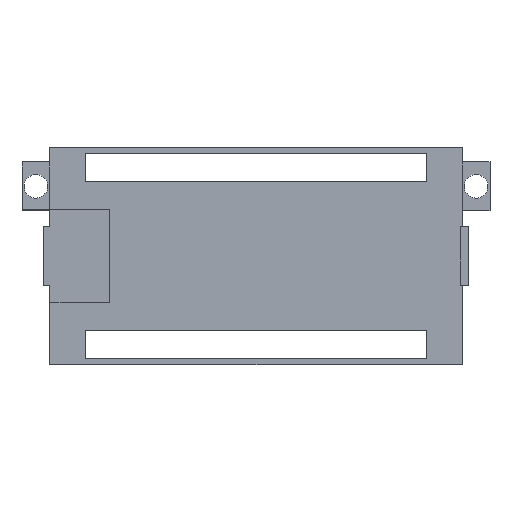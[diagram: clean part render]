
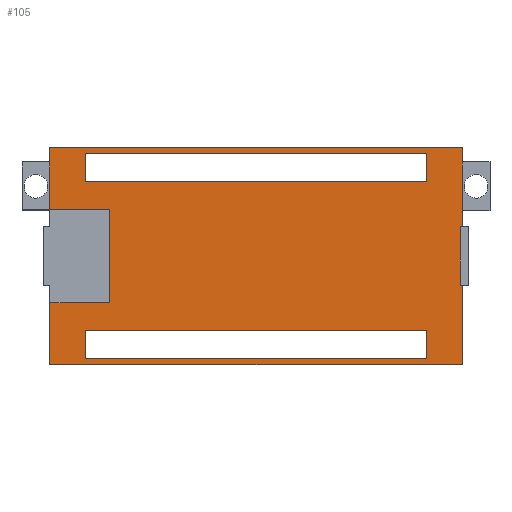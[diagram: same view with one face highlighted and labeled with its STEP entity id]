
A CAD part, top view. The second image highlights one B-rep face of the part: STEP entity #105.
In plain terms, the highlighted planar face has unit normal (0, 0, 1).
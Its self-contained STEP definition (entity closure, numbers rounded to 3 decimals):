
#21 = EDGE_CURVE('',#22,#24,#26,.T.);
#22 = VERTEX_POINT('',#23);
#23 = CARTESIAN_POINT('',(-29.6,-1.625,39.925));
#24 = VERTEX_POINT('',#25);
#25 = CARTESIAN_POINT('',(-29.6,7.275,39.925));
#26 = LINE('',#27,#28);
#27 = CARTESIAN_POINT('',(-29.6,-1.625,39.925));
#28 = VECTOR('',#29,1.);
#29 = DIRECTION('',(-0.,1.,0.));
#105 = ADVANCED_FACE('',(#106,#219,#253),#287,.T.);
#106 = FACE_BOUND('',#107,.T.);
#107 = EDGE_LOOP('',(#108,#109,#117,#125,#133,#141,#149,#157,#165,#173,
    #181,#189,#197,#205,#213));
#108 = ORIENTED_EDGE('',*,*,#21,.F.);
#109 = ORIENTED_EDGE('',*,*,#110,.T.);
#110 = EDGE_CURVE('',#22,#111,#113,.T.);
#111 = VERTEX_POINT('',#112);
#112 = CARTESIAN_POINT('',(29.6,-1.625,39.925));
#113 = LINE('',#114,#115);
#114 = CARTESIAN_POINT('',(-29.6,-1.625,39.925));
#115 = VECTOR('',#116,1.);
#116 = DIRECTION('',(1.,0.,-0.));
#117 = ORIENTED_EDGE('',*,*,#118,.T.);
#118 = EDGE_CURVE('',#111,#119,#121,.T.);
#119 = VERTEX_POINT('',#120);
#120 = CARTESIAN_POINT('',(29.6,9.775,39.925));
#121 = LINE('',#122,#123);
#122 = CARTESIAN_POINT('',(29.6,-1.625,39.925));
#123 = VECTOR('',#124,1.);
#124 = DIRECTION('',(-0.,1.,0.));
#125 = ORIENTED_EDGE('',*,*,#126,.T.);
#126 = EDGE_CURVE('',#119,#127,#129,.T.);
#127 = VERTEX_POINT('',#128);
#128 = CARTESIAN_POINT('',(29.3,9.775,39.925));
#129 = LINE('',#130,#131);
#130 = CARTESIAN_POINT('',(-0.15,9.775,39.925));
#131 = VECTOR('',#132,1.);
#132 = DIRECTION('',(-1.,-0.,0.));
#133 = ORIENTED_EDGE('',*,*,#134,.T.);
#134 = EDGE_CURVE('',#127,#135,#137,.T.);
#135 = VERTEX_POINT('',#136);
#136 = CARTESIAN_POINT('',(29.3,18.175,39.925));
#137 = LINE('',#138,#139);
#138 = CARTESIAN_POINT('',(29.3,4.075,39.925));
#139 = VECTOR('',#140,1.);
#140 = DIRECTION('',(-0.,1.,0.));
#141 = ORIENTED_EDGE('',*,*,#142,.F.);
#142 = EDGE_CURVE('',#143,#135,#145,.T.);
#143 = VERTEX_POINT('',#144);
#144 = CARTESIAN_POINT('',(29.6,18.175,39.925));
#145 = LINE('',#146,#147);
#146 = CARTESIAN_POINT('',(-0.15,18.175,39.925));
#147 = VECTOR('',#148,1.);
#148 = DIRECTION('',(-1.,-0.,0.));
#149 = ORIENTED_EDGE('',*,*,#150,.T.);
#150 = EDGE_CURVE('',#143,#151,#153,.T.);
#151 = VERTEX_POINT('',#152);
#152 = CARTESIAN_POINT('',(29.6,20.475,39.925));
#153 = LINE('',#154,#155);
#154 = CARTESIAN_POINT('',(29.6,-1.625,39.925));
#155 = VECTOR('',#156,1.);
#156 = DIRECTION('',(-0.,1.,0.));
#157 = ORIENTED_EDGE('',*,*,#158,.T.);
#158 = EDGE_CURVE('',#151,#159,#161,.T.);
#159 = VERTEX_POINT('',#160);
#160 = CARTESIAN_POINT('',(29.6,27.475,39.925));
#161 = LINE('',#162,#163);
#162 = CARTESIAN_POINT('',(29.6,-1.625,39.925));
#163 = VECTOR('',#164,1.);
#164 = DIRECTION('',(-0.,1.,0.));
#165 = ORIENTED_EDGE('',*,*,#166,.T.);
#166 = EDGE_CURVE('',#159,#167,#169,.T.);
#167 = VERTEX_POINT('',#168);
#168 = CARTESIAN_POINT('',(29.6,29.575,39.925));
#169 = LINE('',#170,#171);
#170 = CARTESIAN_POINT('',(29.6,-1.625,39.925));
#171 = VECTOR('',#172,1.);
#172 = DIRECTION('',(-0.,1.,0.));
#173 = ORIENTED_EDGE('',*,*,#174,.F.);
#174 = EDGE_CURVE('',#175,#167,#177,.T.);
#175 = VERTEX_POINT('',#176);
#176 = CARTESIAN_POINT('',(-29.6,29.575,39.925));
#177 = LINE('',#178,#179);
#178 = CARTESIAN_POINT('',(-29.6,29.575,39.925));
#179 = VECTOR('',#180,1.);
#180 = DIRECTION('',(1.,0.,-0.));
#181 = ORIENTED_EDGE('',*,*,#182,.F.);
#182 = EDGE_CURVE('',#183,#175,#185,.T.);
#183 = VERTEX_POINT('',#184);
#184 = CARTESIAN_POINT('',(-29.6,27.475,39.925));
#185 = LINE('',#186,#187);
#186 = CARTESIAN_POINT('',(-29.6,-1.625,39.925));
#187 = VECTOR('',#188,1.);
#188 = DIRECTION('',(-0.,1.,0.));
#189 = ORIENTED_EDGE('',*,*,#190,.F.);
#190 = EDGE_CURVE('',#191,#183,#193,.T.);
#191 = VERTEX_POINT('',#192);
#192 = CARTESIAN_POINT('',(-29.6,20.675,39.925));
#193 = LINE('',#194,#195);
#194 = CARTESIAN_POINT('',(-29.6,-1.625,39.925));
#195 = VECTOR('',#196,1.);
#196 = DIRECTION('',(-0.,1.,0.));
#197 = ORIENTED_EDGE('',*,*,#198,.F.);
#198 = EDGE_CURVE('',#199,#191,#201,.T.);
#199 = VERTEX_POINT('',#200);
#200 = CARTESIAN_POINT('',(-21.,20.675,39.925));
#201 = LINE('',#202,#203);
#202 = CARTESIAN_POINT('',(-33.8,20.675,39.925));
#203 = VECTOR('',#204,1.);
#204 = DIRECTION('',(-1.,-0.,0.));
#205 = ORIENTED_EDGE('',*,*,#206,.F.);
#206 = EDGE_CURVE('',#207,#199,#209,.T.);
#207 = VERTEX_POINT('',#208);
#208 = CARTESIAN_POINT('',(-21.,7.275,39.925));
#209 = LINE('',#210,#211);
#210 = CARTESIAN_POINT('',(-21.,2.825,39.925));
#211 = VECTOR('',#212,1.);
#212 = DIRECTION('',(-0.,1.,0.));
#213 = ORIENTED_EDGE('',*,*,#214,.T.);
#214 = EDGE_CURVE('',#207,#24,#215,.T.);
#215 = LINE('',#216,#217);
#216 = CARTESIAN_POINT('',(-33.8,7.275,39.925));
#217 = VECTOR('',#218,1.);
#218 = DIRECTION('',(-1.,-0.,0.));
#219 = FACE_BOUND('',#220,.T.);
#220 = EDGE_LOOP('',(#221,#231,#239,#247));
#221 = ORIENTED_EDGE('',*,*,#222,.T.);
#222 = EDGE_CURVE('',#223,#225,#227,.T.);
#223 = VERTEX_POINT('',#224);
#224 = CARTESIAN_POINT('',(24.55,-0.775,39.925));
#225 = VERTEX_POINT('',#226);
#226 = CARTESIAN_POINT('',(-24.55,-0.775,39.925));
#227 = LINE('',#228,#229);
#228 = CARTESIAN_POINT('',(-27.075,-0.775,39.925));
#229 = VECTOR('',#230,1.);
#230 = DIRECTION('',(-1.,-0.,0.));
#231 = ORIENTED_EDGE('',*,*,#232,.T.);
#232 = EDGE_CURVE('',#225,#233,#235,.T.);
#233 = VERTEX_POINT('',#234);
#234 = CARTESIAN_POINT('',(-24.55,3.325,39.925));
#235 = LINE('',#236,#237);
#236 = CARTESIAN_POINT('',(-24.55,-1.2,39.925));
#237 = VECTOR('',#238,1.);
#238 = DIRECTION('',(-0.,1.,0.));
#239 = ORIENTED_EDGE('',*,*,#240,.F.);
#240 = EDGE_CURVE('',#241,#233,#243,.T.);
#241 = VERTEX_POINT('',#242);
#242 = CARTESIAN_POINT('',(24.55,3.325,39.925));
#243 = LINE('',#244,#245);
#244 = CARTESIAN_POINT('',(-27.075,3.325,39.925));
#245 = VECTOR('',#246,1.);
#246 = DIRECTION('',(-1.,-0.,0.));
#247 = ORIENTED_EDGE('',*,*,#248,.F.);
#248 = EDGE_CURVE('',#223,#241,#249,.T.);
#249 = LINE('',#250,#251);
#250 = CARTESIAN_POINT('',(24.55,-1.2,39.925));
#251 = VECTOR('',#252,1.);
#252 = DIRECTION('',(-0.,1.,0.));
#253 = FACE_BOUND('',#254,.T.);
#254 = EDGE_LOOP('',(#255,#265,#273,#281));
#255 = ORIENTED_EDGE('',*,*,#256,.T.);
#256 = EDGE_CURVE('',#257,#259,#261,.T.);
#257 = VERTEX_POINT('',#258);
#258 = CARTESIAN_POINT('',(24.55,24.625,39.925));
#259 = VERTEX_POINT('',#260);
#260 = CARTESIAN_POINT('',(-24.55,24.625,39.925));
#261 = LINE('',#262,#263);
#262 = CARTESIAN_POINT('',(-27.075,24.625,39.925));
#263 = VECTOR('',#264,1.);
#264 = DIRECTION('',(-1.,-0.,0.));
#265 = ORIENTED_EDGE('',*,*,#266,.T.);
#266 = EDGE_CURVE('',#259,#267,#269,.T.);
#267 = VERTEX_POINT('',#268);
#268 = CARTESIAN_POINT('',(-24.55,28.725,39.925));
#269 = LINE('',#270,#271);
#270 = CARTESIAN_POINT('',(-24.55,11.5,39.925));
#271 = VECTOR('',#272,1.);
#272 = DIRECTION('',(-0.,1.,0.));
#273 = ORIENTED_EDGE('',*,*,#274,.F.);
#274 = EDGE_CURVE('',#275,#267,#277,.T.);
#275 = VERTEX_POINT('',#276);
#276 = CARTESIAN_POINT('',(24.55,28.725,39.925));
#277 = LINE('',#278,#279);
#278 = CARTESIAN_POINT('',(-27.075,28.725,39.925));
#279 = VECTOR('',#280,1.);
#280 = DIRECTION('',(-1.,-0.,0.));
#281 = ORIENTED_EDGE('',*,*,#282,.F.);
#282 = EDGE_CURVE('',#257,#275,#283,.T.);
#283 = LINE('',#284,#285);
#284 = CARTESIAN_POINT('',(24.55,11.5,39.925));
#285 = VECTOR('',#286,1.);
#286 = DIRECTION('',(-0.,1.,0.));
#287 = PLANE('',#288);
#288 = AXIS2_PLACEMENT_3D('',#289,#290,#291);
#289 = CARTESIAN_POINT('',(-29.6,-1.625,39.925));
#290 = DIRECTION('',(0.,0.,1.));
#291 = DIRECTION('',(1.,0.,-0.));
